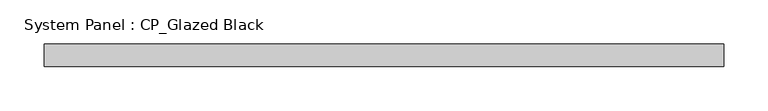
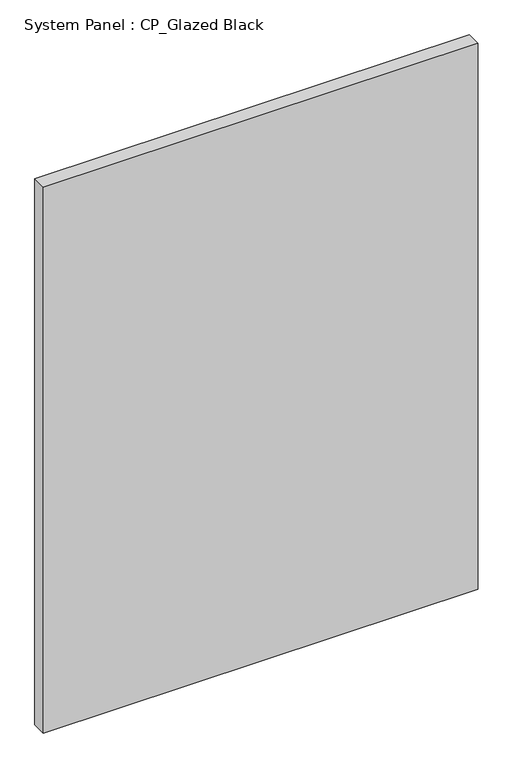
"""IFC4 building model written with IfcOpenShell, lengths in millimetres: plate geometry, System Panel : CP_Glazed Black."""

from ifc_helpers import new_model, si_unit, origin, origin_with_axes, place, context, project, spatial, polyline, outline, extrude, source, transform, mapped, element, save


def system_panel_cp_glazed_black_7b031a45(model_context):
    return source(origin(), model_context, "Body", "SweptSolid", [
        extrude(outline(polyline([(384.175, 19.05), (-384.175, 19.05), (-384.175, 44.45), (384.175, 44.45), (384.175, 19.05)])), origin_with_axes(), (0.0, 0.0, 1.0), 1019.175),
    ])


if __name__ == "__main__":
    model = new_model("IFC4")
    model_context = context("Model", 3, world=origin())
    ifc_project = project(units=[si_unit("LENGTHUNIT", "METRE", prefix="MILLI")], contexts=[model_context])
    site = spatial("IfcSite", under=ifc_project)
    building = spatial("IfcBuilding", under=site)
    placement = place(None, origin())
    system_panel_cp_glazed_black_shape = system_panel_cp_glazed_black_7b031a45(model_context)
    element("IfcPlate", 1, ObjectType="System Panel : CP_Glazed Black", at=placement, inside=building, context=model_context, shape_type="MappedRepresentation", body=[
        mapped(system_panel_cp_glazed_black_shape, transform((0.0, 0.0, 0.0), x_axis=(1.0, 0.0, 0.0), y_axis=(0.0, 1.0, 0.0), z_axis=(0.0, 0.0, 1.0))),
    ])
    save(model, "model.ifc")
